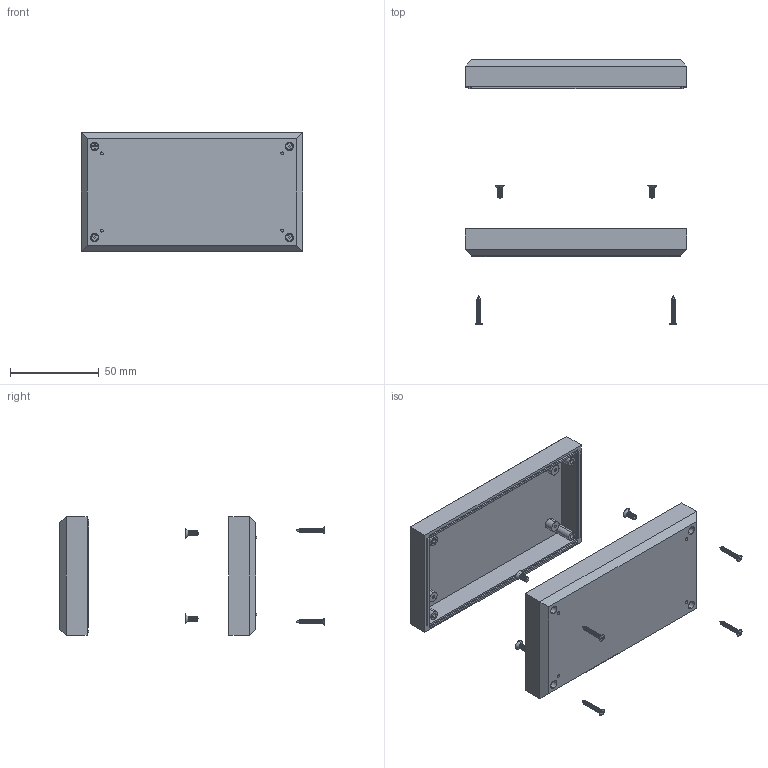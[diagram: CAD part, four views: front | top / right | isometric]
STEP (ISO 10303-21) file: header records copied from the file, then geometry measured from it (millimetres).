
FILE_DESCRIPTION (( 'STEP AP214' ), '1' );
FILE_NAME ('Conjunt PP61A.STEP', '2017-07-27T09:35:57', ( 'aaa' ), ( '' ), 'SwSTEP 2.0', 'SolidWorks 2013', '' );
FILE_SCHEMA (( 'AUTOMOTIVE_DESIGN' ));
Length unit declared in the file: millimetre
Products named in the file (5): Cos PP61A; Cargol 2,8x7,5 PP61A; Cargol 2,2x16 PP61A; Tapa PP61A; Conjunt PP61A
Assembly tree (10 placements, depth 2):
  Conjunt PP61A
    Cos PP61A
    Tapa PP61A
    Cargol 2,2x16 PP61A  x4
    Cargol 2,8x7,5 PP61A  x4
Bounding box: 125 x 149.05 x 67 mm (x, y, z)
Volume: 80341.2 mm3; surface area: 60078.3 mm2
Topology: 10 solids, 10 shells, 1036 faces, 2249 edges, 1274 vertices
Faces by surface type: cone 648, plane 255, cylinder 129, torus 4
Entity records: 12903 total; most frequent: DIRECTION 2311, CARTESIAN_POINT 2310, ORIENTED_EDGE 2042, EDGE_CURVE 1021, AXIS2_PLACEMENT_3D 859, VERTEX_POINT 626, VECTOR 593, LINE 593
